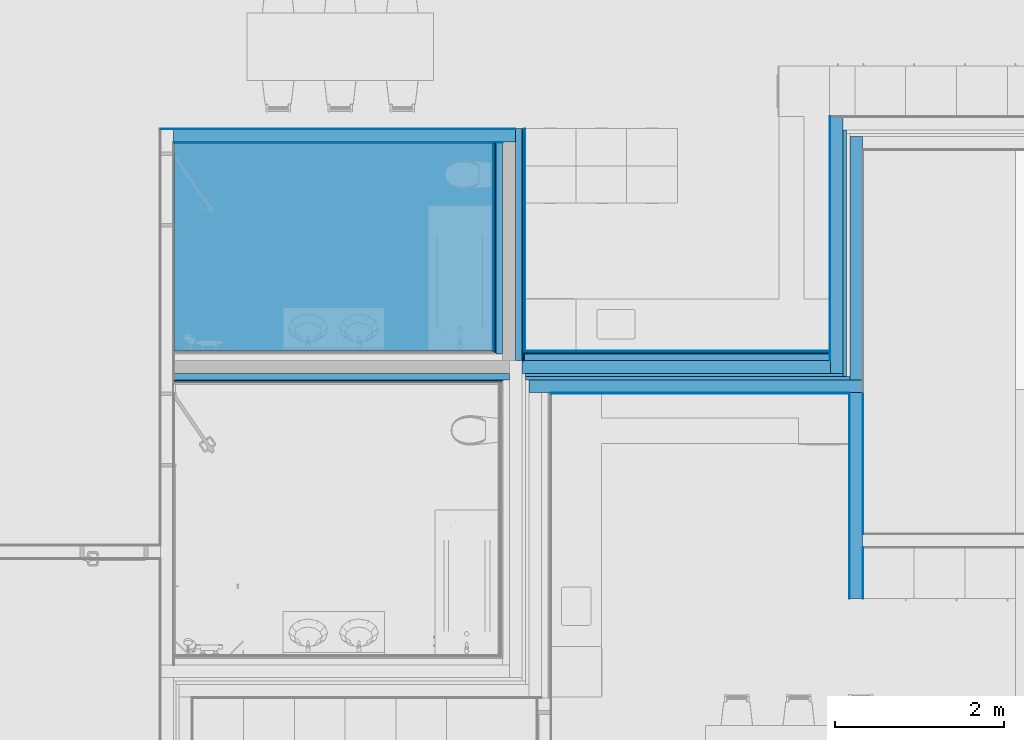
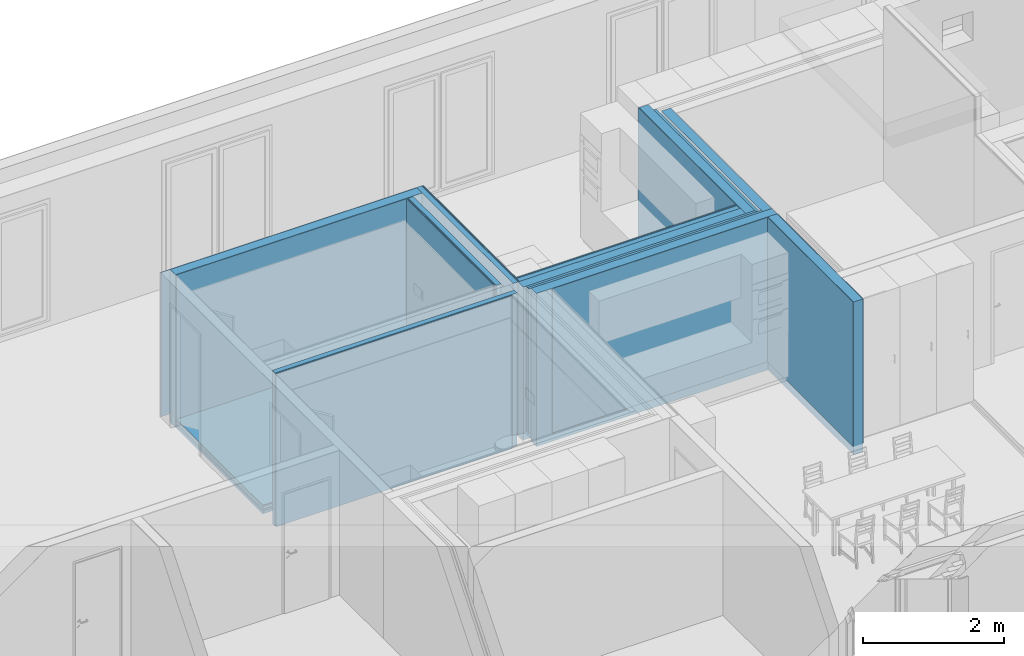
# One storey, part 10 of 34: 34 building element parts, 11 elements without a shape of their own.
"""IFC4 building model written with IfcOpenShell, lengths in millimetres."""

from ifc_helpers import new_model, entity, si_unit, converted_unit, derived_unit, direction, frame, origin_with_axes, place, context, subcontext, project, spatial, polygons, material, type_object, element, aggregate, save


model = new_model("IFC4")

# Units and contexts
model_context = context("Model", 3, precision=0.01, world=origin_with_axes(), true_north=direction((0.0, 1.0)))
body_context = subcontext(model_context, "Body", "Model", "MODEL_VIEW")
ifc_project = project(units=[si_unit("LENGTHUNIT", "METRE", prefix="MILLI"), si_unit("AREAUNIT", "SQUARE_METRE"), si_unit("VOLUMEUNIT", "CUBIC_METRE"), converted_unit("PLANEANGLEUNIT", "DEGREE", entity("IfcPlaneAngleMeasure", 0.0174532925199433), si_unit("PLANEANGLEUNIT", "RADIAN"), dimensions=[0, 0, 0, 0, 0, 0, 0]), converted_unit("TIMEUNIT", "Year", entity("IfcTimeMeasure", 31557600.0), si_unit("TIMEUNIT", "SECOND"), dimensions=[0, 0, 1, 0, 0, 0, 0]), si_unit("MASSUNIT", "GRAM", prefix="KILO"), si_unit("THERMODYNAMICTEMPERATUREUNIT", "DEGREE_CELSIUS"), si_unit("LUMINOUSINTENSITYUNIT", "LUMEN"), si_unit("ENERGYUNIT", "JOULE", prefix="MEGA"), derived_unit("THERMALCONDUCTANCEUNIT", [(si_unit("POWERUNIT", "WATT"), 1), (si_unit("LENGTHUNIT", "METRE"), -1), (si_unit("THERMODYNAMICTEMPERATUREUNIT", "KELVIN"), -1)]), derived_unit("SPECIFICHEATCAPACITYUNIT", [(si_unit("ENERGYUNIT", "JOULE"), 1), (si_unit("MASSUNIT", "GRAM", prefix="KILO"), -1), (si_unit("THERMODYNAMICTEMPERATUREUNIT", "KELVIN"), -1)]), derived_unit("MASSDENSITYUNIT", [(si_unit("MASSUNIT", "GRAM", prefix="KILO"), 1), (si_unit("VOLUMEUNIT", "CUBIC_METRE"), -1)])], contexts=[model_context])

# Site, building, storey
site_placement = place(None, origin_with_axes())
site = spatial("IfcSite", under=ifc_project, at=site_placement, Name="Gelände", CompositionType="ELEMENT")
building_placement = place(site_placement, origin_with_axes())
building = spatial("IfcBuilding", under=site, at=building_placement, Name="Gebäude", CompositionType="ELEMENT")
storey_placement = place(building_placement, frame((0.0, 0.0, 5799.999999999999), z_axis=(0.0, 0.0, 1.0), x_axis=(1.0, 0.0, 0.0)))
storey = spatial("IfcBuildingStorey", under=building, at=storey_placement, Name="2.OG", CompositionType="ELEMENT", Elevation=5800.0)

# Covering, building element parts
covering_type = type_object("IfcCoveringType", Name="Bodenaufbau Typ 02 150", PredefinedType="NOTDEFINED")
covering_placement = place(storey_placement, frame((282.9958184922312, 34534.06372514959, 0.0), z_axis=(0.0, 0.0, 1.0), x_axis=(1.0, 0.0, 0.0)))
covering = element("IfcCovering", 1, at=covering_placement, inside=storey, type_object=covering_type, Name="Decke-007", PredefinedType="NOTDEFINED")
ifc_material_1 = material(Name="Keramik")
building_element_part_1_placement = place(covering_placement, origin_with_axes())
building_element_part_1 = element("IfcBuildingElementPart", 2, at=building_element_part_1_placement, material=ifc_material_1, Name="Keramik", PredefinedType="NOTDEFINED", context=body_context, shape_type="Tessellation", body=[
    polygons([(0.0, -2456.466443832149, 135.0000000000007), (0.0, -2456.466443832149, 150.0000000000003), (0.0, 0.0, 150.0000000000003), (0.0, 0.0, 135.0000000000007), (3767.777730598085, -2456.466443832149, 135.0000000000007), (3767.777730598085, -2456.466443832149, 150.0000000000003), (3767.777730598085, -2.108517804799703e-05, 150.0000000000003), (3767.777730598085, -2.108517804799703e-05, 135.0000000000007)], [[[1, 2, 3, 4]], [[5, 6, 2, 1]], [[3, 2, 6, 7]], [[4, 3, 7, 8]], [[4, 8, 5, 1]], [[8, 7, 6, 5]]], closed=True),
])
ifc_material_2 = material(Name="Unterlagsboden")
building_element_part_2_placement = place(covering_placement, origin_with_axes())
building_element_part_2 = element("IfcBuildingElementPart", 3, at=building_element_part_2_placement, material=ifc_material_2, Name="Unterlagsboden", PredefinedType="NOTDEFINED", context=body_context, shape_type="Tessellation", body=[
    polygons([(0.0, -2456.466443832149, 80.00000000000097), (0.0, -2456.466443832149, 135.0000000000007), (0.0, 0.0, 135.0000000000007), (0.0, 0.0, 80.00000000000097), (3767.777730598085, -2456.466443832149, 80.00000000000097), (3767.777730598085, -2456.466443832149, 135.0000000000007), (3767.777730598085, -2.108517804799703e-05, 135.0000000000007), (3767.777730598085, -2.108517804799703e-05, 80.00000000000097)], [[[1, 2, 3, 4]], [[5, 6, 2, 1]], [[3, 2, 6, 7]], [[4, 3, 7, 8]], [[4, 8, 5, 1]], [[8, 7, 6, 5]]], closed=True),
])
ifc_material_3 = material(Name="Trittschalldämmung")
building_element_part_3_placement = place(covering_placement, origin_with_axes())
building_element_part_3 = element("IfcBuildingElementPart", 4, at=building_element_part_3_placement, material=ifc_material_3, Name="Trittschalldämmung", PredefinedType="NOTDEFINED", context=body_context, shape_type="Tessellation", body=[
    polygons([(0.0, -2456.466443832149, 49.99999999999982), (0.0, -2456.466443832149, 80.00000000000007), (0.0, 0.0, 80.00000000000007), (0.0, 0.0, 49.99999999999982), (3767.777730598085, -2456.466443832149, 49.99999999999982), (3767.777730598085, -2456.466443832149, 80.00000000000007), (3767.777730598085, -2.108517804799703e-05, 80.00000000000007), (3767.777730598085, -2.108517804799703e-05, 49.99999999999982)], [[[1, 2, 3, 4]], [[5, 6, 2, 1]], [[3, 2, 6, 7]], [[4, 3, 7, 8]], [[4, 8, 5, 1]], [[8, 7, 6, 5]]], closed=True),
])
ifc_material_4 = material(Name="Dämmung Innen")
building_element_part_4_placement = place(covering_placement, origin_with_axes())
building_element_part_4 = element("IfcBuildingElementPart", 5, at=building_element_part_4_placement, material=ifc_material_4, Name="Dämmung Innen", PredefinedType="NOTDEFINED", context=body_context, shape_type="Tessellation", body=[
    polygons([(0.0, 0.0, 0.0), (0.0, -2456.466443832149, 0.0), (0.0, -2456.466443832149, 50.00000000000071), (0.0, 0.0, 50.00000000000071), (3767.777730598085, -2.108517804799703e-05, 0.0), (3767.777730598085, -2456.466443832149, 0.0), (3767.777730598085, -2456.466443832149, 50.00000000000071), (3767.777730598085, -2.108517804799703e-05, 50.00000000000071)], [[[1, 2, 3, 4]], [[1, 5, 6, 2]], [[2, 6, 7, 3]], [[4, 3, 7, 8]], [[5, 1, 4, 8]], [[6, 5, 8, 7]]], closed=True),
])
aggregate(covering, [building_element_part_1, building_element_part_2, building_element_part_3, building_element_part_4])

# Wall, building element part
wall_type_1 = type_object("IfcWallType", Name="Trennwand Typ 02 - kein Putz 190", PredefinedType="NOTDEFINED")
wall_1_placement = place(storey_placement, frame((8038.997444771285, 31962.59728131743, 0.0), z_axis=(0.0, 0.0, 1.0), x_axis=(-1.0, 0.0, 0.0)))
wall_1 = element("IfcWall", 6, at=wall_1_placement, inside=storey, type_object=wall_type_1, Name="Wand-014", PredefinedType="NOTDEFINED")
building_element_part_5_placement = place(wall_1_placement, origin_with_axes())
building_element_part_5 = element("IfcBuildingElementPart", 7, at=building_element_part_5_placement, material=ifc_material_4, Name="Dämmung Innen", PredefinedType="NOTDEFINED", context=body_context, shape_type="Tessellation", body=[
    polygons([(-150.0000000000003, 190.0000000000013, 150.0000000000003), (-150.0000000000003, 149.9999999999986, 150.0000000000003), (-150.0000000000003, 149.9999999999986, 2649.999948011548), (-150.0000000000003, 190.0000000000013, 2649.999948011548), (3603.001626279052, 149.9999999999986, 150.0000000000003), (3603.001626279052, 190.0000000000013, 150.0000000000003), (3603.001626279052, 149.9999999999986, 2649.999948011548), (3603.001626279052, 190.0000000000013, 2649.999948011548)], [[[1, 2, 3, 4]], [[5, 2, 1, 6]], [[2, 5, 7, 3]], [[3, 7, 8, 4]], [[6, 1, 4, 8]], [[5, 6, 8, 7]]], closed=True),
])

wall_type_2 = type_object("IfcWallType", Name="Trennwand Typ 03 - verputzt 200", PredefinedType="NOTDEFINED")
wall_2_placement = place(storey_placement, frame((8038.997444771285, 34837.59728131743, 0.0), z_axis=(0.0, 0.0, 1.0), x_axis=(0.0, -1.0, 0.0)))
wall_2 = element("IfcWall", 8, at=wall_2_placement, inside=storey, type_object=wall_type_2, Name="Wand-014", PredefinedType="NOTDEFINED")
building_element_part_6_placement = place(wall_2_placement, origin_with_axes())
building_element_part_6 = element("IfcBuildingElementPart", 9, at=building_element_part_6_placement, material=ifc_material_4, Name="Dämmung Innen", PredefinedType="NOTDEFINED", context=body_context, shape_type="Tessellation", body=[
    polygons([(3064.999999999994, 189.9999999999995, 150.0000000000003), (149.9999999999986, 189.9999999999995, 150.0000000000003), (149.9999999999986, 189.9999999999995, 2649.999948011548), (3064.999999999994, 189.9999999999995, 2649.999948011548), (149.9999999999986, 150.0000000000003, 150.0000000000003), (3064.999999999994, 150.0000000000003, 150.0000000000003), (149.9999999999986, 150.0000000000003, 2649.999948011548), (3064.999999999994, 150.0000000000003, 2649.999948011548)], [[[1, 2, 3, 4]], [[5, 2, 1, 6]], [[2, 5, 7, 3]], [[8, 4, 3, 7]], [[6, 1, 4, 8]], [[5, 6, 8, 7]]], closed=True),
])

# Building element part
ifc_material_5 = material(Name="MW, Backstein")
building_element_part_7_placement = place(wall_1_placement, origin_with_axes())
building_element_part_7 = element("IfcBuildingElementPart", 10, at=building_element_part_7_placement, material=ifc_material_5, Name="MW, Backstein", PredefinedType="NOTDEFINED", context=body_context, shape_type="Tessellation", body=[
    polygons([(3643.001626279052, 149.9999999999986, 0.0), (3643.001626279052, 0.0, 0.0), (0.0, 0.0, 0.0), (0.0, 149.9999999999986, 0.0), (3643.001626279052, 149.9999999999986, 2649.999948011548), (3643.001626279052, 0.0, 2649.999948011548), (0.0, 0.0, 2649.999948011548), (0.0, 149.9999999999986, 2649.999948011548)], [[[1, 2, 3, 4]], [[2, 1, 5, 6]], [[2, 6, 7, 3]], [[8, 4, 3, 7]], [[5, 1, 4, 8]], [[6, 5, 8, 7]]], closed=True),
])

aggregate(wall_1, [building_element_part_5, building_element_part_7])

building_element_part_8_placement = place(wall_2_placement, origin_with_axes())
building_element_part_8 = element("IfcBuildingElementPart", 11, at=building_element_part_8_placement, material=ifc_material_5, Name="MW, Backstein", PredefinedType="NOTDEFINED", context=body_context, shape_type="Tessellation", body=[
    polygons([(3024.999999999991, 0.0, 0.0), (0.0, 0.0, 0.0), (0.0, 150.0000000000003, 0.0), (3024.999999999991, 150.0000000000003, 0.0), (3024.999999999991, 0.0, 2649.999948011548), (0.0, 0.0, 2649.999948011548), (0.0, 150.0000000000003, 2649.999948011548), (3024.999999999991, 150.0000000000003, 2649.999948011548)], [[[1, 2, 3, 4]], [[5, 6, 2, 1]], [[3, 2, 6, 7]], [[4, 3, 7, 8]], [[4, 8, 5, 1]], [[8, 7, 6, 5]]], closed=True),
])

ifc_material_6 = material(Name="Kalkzementputz Aussen")
building_element_part_9_placement = place(wall_2_placement, origin_with_axes())
building_element_part_9 = element("IfcBuildingElementPart", 12, at=building_element_part_9_placement, material=ifc_material_6, Name="Kalkzementputz Aussen", PredefinedType="NOTDEFINED", context=body_context, shape_type="Tessellation", body=[
    polygons([(2874.999999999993, 0.0, 150.0000000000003), (-9.99999999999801, 0.0, 150.0000000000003), (-9.99999999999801, 0.0, 2649.999948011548), (2874.999999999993, 0.0, 2649.999948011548), (-9.99999999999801, -9.999999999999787, 150.0000000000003), (2874.999999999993, -9.999999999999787, 150.0000000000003), (-9.99999999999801, -9.999999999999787, 2649.999948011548), (2874.999999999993, -9.999999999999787, 2649.999948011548)], [[[1, 2, 3, 4]], [[5, 2, 1, 6]], [[2, 5, 7, 3]], [[8, 4, 3, 7]], [[6, 1, 4, 8]], [[5, 6, 8, 7]]], closed=True),
])

aggregate(wall_2, [building_element_part_6, building_element_part_8, building_element_part_9])

# Wall, building element parts
wall_3_placement = place(storey_placement, frame((4625.995818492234, 31582.59728131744, 0.0), z_axis=(0.0, 0.0, 1.0), x_axis=(1.0, 0.0, 0.0)))
wall_3 = element("IfcWall", 13, at=wall_3_placement, inside=storey, type_object=wall_type_2, Name="Wand-015", PredefinedType="NOTDEFINED")
building_element_part_10_placement = place(wall_3_placement, origin_with_axes())
building_element_part_10 = element("IfcBuildingElementPart", 14, at=building_element_part_10_placement, material=ifc_material_4, Name="Dämmung Innen", PredefinedType="NOTDEFINED", context=body_context, shape_type="Tessellation", body=[
    polygons([(3643.001626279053, 149.9999999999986, 150.0000000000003), (3643.001626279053, 190.0000000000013, 150.0000000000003), (3643.001626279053, 190.0000000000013, 2649.999948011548), (3643.001626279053, 150.0000000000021, 2649.999948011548), (-190.0000000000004, 190.0000000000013, 150.0000000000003), (-190.0000000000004, 149.9999999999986, 150.0000000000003), (-190.0000000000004, 190.0000000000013, 2649.999948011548), (-190.0000000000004, 149.9999999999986, 2649.999948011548)], [[[1, 2, 3, 4]], [[5, 2, 1, 6]], [[2, 5, 7, 3]], [[4, 3, 7, 8]], [[6, 1, 4, 8]], [[5, 6, 8, 7]]], closed=True),
])
building_element_part_11_placement = place(wall_3_placement, origin_with_axes())
building_element_part_11 = element("IfcBuildingElementPart", 15, at=building_element_part_11_placement, material=ifc_material_5, Name="MW, Backstein", PredefinedType="NOTDEFINED", context=body_context, shape_type="Tessellation", body=[
    polygons([(3793.001626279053, 149.9999999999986, 0.0), (3793.001626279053, 0.0, 0.0), (-150.0000000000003, 0.0, 0.0), (-150.0000000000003, 149.9999999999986, 0.0), (3793.001626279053, 150.0000000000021, 2649.999948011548), (3793.001626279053, 0.0, 2649.999948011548), (-150.0000000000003, 0.0, 2649.999948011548), (-150.0000000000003, 149.9999999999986, 2649.999948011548)], [[[1, 2, 3, 4]], [[2, 1, 5, 6]], [[2, 6, 7, 3]], [[8, 4, 3, 7]], [[5, 1, 4, 8]], [[6, 5, 8, 7]]], closed=True),
])

# Wall, building element part
wall_4_placement = place(storey_placement, frame((8418.997444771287, 31582.59728131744, 0.0), z_axis=(0.0, 0.0, 1.0), x_axis=(0.0, 1.0, 0.0)))
wall_4 = element("IfcWall", 16, at=wall_4_placement, inside=storey, type_object=wall_type_2, Name="Wand-016", PredefinedType="NOTDEFINED")
building_element_part_12_placement = place(wall_4_placement, origin_with_axes())
building_element_part_12 = element("IfcBuildingElementPart", 17, at=building_element_part_12_placement, material=ifc_material_5, Name="MW, Backstein", PredefinedType="NOTDEFINED", context=body_context, shape_type="Tessellation", body=[
    polygons([(3024.999999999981, 0.0, 0.0), (149.9999999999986, 0.0, 0.0), (149.9999999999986, 150.0000000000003, 0.0), (3024.999999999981, 150.0000000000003, 0.0), (3024.999999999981, 0.0, 2649.999948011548), (149.9999999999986, 0.0, 2649.999948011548), (149.9999999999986, 150.0000000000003, 2649.999948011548), (3024.999999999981, 150.0000000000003, 2649.999948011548)], [[[1, 2, 3, 4]], [[5, 6, 2, 1]], [[3, 2, 6, 7]], [[4, 3, 7, 8]], [[4, 8, 5, 1]], [[8, 7, 6, 5]]], closed=True),
])
aggregate(wall_4, [building_element_part_12])

# Wall, building element parts
wall_type_3 = type_object("IfcWallType", Name="Innenwand Typ 05 170", PredefinedType="NOTDEFINED")
wall_5_placement = place(storey_placement, frame((8418.997444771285, 31582.59728131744, 0.0), z_axis=(0.0, 0.0, 1.0), x_axis=(0.0, -1.0, 0.0)))
wall_5 = element("IfcWall", 18, at=wall_5_placement, inside=storey, type_object=wall_type_3, Name="Wand-014", PredefinedType="NOTDEFINED")
building_element_part_13_placement = place(wall_5_placement, origin_with_axes())
building_element_part_13 = element("IfcBuildingElementPart", 19, at=building_element_part_13_placement, material=ifc_material_6, Name="Kalkzementputz Aussen", PredefinedType="NOTDEFINED", context=body_context, shape_type="Tessellation", body=[
    polygons([(1674.999999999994, 9.999999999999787, 150.0000000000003), (9.99999999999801, 10.00000000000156, 150.0000000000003), (9.99999999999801, 10.00000000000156, 2649.999948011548), (1674.999999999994, 9.999999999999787, 2649.999948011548), (9.99999999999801, 0.0, 150.0000000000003), (1674.999999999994, 0.0, 150.0000000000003), (9.99999999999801, 0.0, 2649.999948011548), (1674.999999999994, 0.0, 2649.999948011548)], [[[1, 2, 3, 4]], [[5, 2, 1, 6]], [[2, 5, 7, 3]], [[4, 3, 7, 8]], [[6, 1, 4, 8]], [[5, 6, 8, 7]]], closed=True),
    polygons([(2432.999999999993, 9.999999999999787, 150.0000000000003), (1824.999999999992, 9.999999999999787, 150.0000000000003), (1824.999999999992, 9.999999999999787, 2649.999948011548), (2432.999999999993, 9.999999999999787, 2649.999948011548), (1824.999999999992, 0.0, 150.0000000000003), (2432.999999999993, 0.0, 150.0000000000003), (1824.999999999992, 0.0, 2649.999948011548), (2432.999999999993, 0.0, 2649.999948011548)], [[[1, 2, 3, 4]], [[5, 2, 1, 6]], [[2, 5, 7, 3]], [[3, 7, 8, 4]], [[6, 1, 4, 8]], [[5, 6, 8, 7]]], closed=True),
])
building_element_part_14_placement = place(wall_5_placement, origin_with_axes())
building_element_part_14 = element("IfcBuildingElementPart", 20, at=building_element_part_14_placement, material=ifc_material_6, Name="Kalkzementputz Aussen", PredefinedType="NOTDEFINED", context=body_context, shape_type="Tessellation", body=[
    polygons([(2432.999999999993, -150.0000000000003, 150.0000000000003), (9.99999999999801, -149.9999999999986, 150.0000000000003), (9.99999999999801, -149.9999999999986, 2649.999948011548), (2432.999999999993, -150.0000000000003, 2649.999948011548), (9.99999999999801, -160.0000000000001, 150.0000000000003), (2432.999999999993, -160.0000000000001, 150.0000000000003), (9.99999999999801, -160.0000000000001, 2649.999948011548), (2432.999999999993, -160.0000000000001, 2649.999948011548)], [[[1, 2, 3, 4]], [[5, 2, 1, 6]], [[2, 5, 7, 3]], [[4, 3, 7, 8]], [[6, 1, 4, 8]], [[5, 6, 8, 7]]], closed=True),
])
building_element_part_15_placement = place(wall_5_placement, origin_with_axes())
building_element_part_15 = element("IfcBuildingElementPart", 21, at=building_element_part_15_placement, material=ifc_material_5, Name="MW, Backstein", PredefinedType="NOTDEFINED", context=body_context, shape_type="Tessellation", body=[
    polygons([(0.0, 0.0, 0.0), (0.0, 0.0, 2649.999948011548), (2432.999999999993, 0.0, 2649.999948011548), (2432.999999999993, 0.0, 0.0), (0.0, -149.9999999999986, 2649.999948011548), (0.0, -149.9999999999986, 0.0), (2432.999999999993, -150.0000000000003, 2649.999948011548), (2432.999999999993, -150.0000000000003, 0.0)], [[[1, 2, 3, 4]], [[5, 2, 1, 6]], [[2, 5, 7, 3]], [[4, 3, 7, 8]], [[6, 1, 4, 8]], [[5, 6, 8, 7]]], closed=True),
])
aggregate(wall_5, [building_element_part_13, building_element_part_14, building_element_part_15])

# Building element part
building_element_part_16_placement = place(wall_3_placement, origin_with_axes())
building_element_part_16 = element("IfcBuildingElementPart", 22, at=building_element_part_16_placement, material=ifc_material_6, Name="Kalkzementputz Aussen", PredefinedType="NOTDEFINED", context=body_context, shape_type="Tessellation", body=[
    polygons([(3643.001626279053, -9.99999999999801, 150.0000000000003), (3643.001626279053, 0.0, 150.0000000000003), (3643.001626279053, 0.0, 2649.999948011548), (3643.001626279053, -9.99999999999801, 2649.999948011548), (104.9999999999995, 0.0, 150.0000000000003), (104.9999999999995, -10.00000000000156, 150.0000000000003), (104.9999999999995, 0.0, 2649.999948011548), (104.9999999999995, -10.00000000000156, 2649.999948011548)], [[[1, 2, 3, 4]], [[5, 2, 1, 6]], [[2, 5, 7, 3]], [[8, 4, 3, 7]], [[6, 1, 4, 8]], [[5, 6, 8, 7]]], closed=True),
    polygons([(3803.001626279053, -9.99999999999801, 150.0000000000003), (3803.001626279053, 0.0, 150.0000000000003), (3803.001626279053, 0.0, 2649.999948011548), (3803.001626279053, -9.99999999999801, 2649.999948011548), (3793.001626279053, 0.0, 150.0000000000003), (3793.001626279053, -9.99999999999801, 150.0000000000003), (3793.001626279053, 0.0, 2649.999948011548), (3793.001626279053, -9.99999999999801, 2649.999948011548)], [[[1, 2, 3, 4]], [[5, 2, 1, 6]], [[2, 5, 7, 3]], [[3, 7, 8, 4]], [[6, 1, 4, 8]], [[5, 6, 8, 7]]], closed=True),
])

aggregate(wall_3, [building_element_part_10, building_element_part_11, building_element_part_16])

# Wall, building element parts
wall_type_4 = type_object("IfcWallType", Name="Vorsatzschale 01 115", PredefinedType="NOTDEFINED")
wall_6_placement = place(storey_placement, frame((8028.997444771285, 31962.59728131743, 0.0), z_axis=(0.0, 0.0, 1.0), x_axis=(-1.0, 0.0, 0.0)))
wall_6 = element("IfcWall", 23, at=wall_6_placement, inside=storey, type_object=wall_type_4, Name="Wand-014", PredefinedType="NOTDEFINED")
ifc_material_7 = material(Name="Gipskartonplatte GKP")
building_element_part_17_placement = place(wall_6_placement, origin_with_axes())
building_element_part_17 = element("IfcBuildingElementPart", 24, at=building_element_part_17_placement, material=ifc_material_7, Name="Gipskartonplatte GKP", PredefinedType="NOTDEFINED", context=body_context, shape_type="Tessellation", body=[
    polygons([(3608.223895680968, -92.50000000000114, 0.0), (3608.223895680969, -92.50000000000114, 2649.999948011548), (0.0, -92.50000000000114, 2649.999948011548), (0.0, -92.50000000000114, 0.0), (3608.223895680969, -79.9999999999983, 2649.999948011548), (3608.223895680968, -79.9999999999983, 0.0), (0.0, -79.9999999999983, 2649.999948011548), (0.0, -79.9999999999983, 0.0)], [[[1, 2, 3, 4]], [[5, 2, 1, 6]], [[2, 5, 7, 3]], [[3, 7, 8, 4]], [[6, 1, 4, 8]], [[5, 6, 8, 7]]], closed=True),
])
building_element_part_18_placement = place(wall_6_placement, origin_with_axes())
building_element_part_18 = element("IfcBuildingElementPart", 25, at=building_element_part_18_placement, material=ifc_material_7, Name="Gipskartonplatte GKP", PredefinedType="NOTDEFINED", context=body_context, shape_type="Tessellation", body=[
    polygons([(3608.223895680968, -104.9999999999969, 0.0), (3608.223895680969, -104.9999999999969, 2649.999948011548), (0.0, -104.9999999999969, 2649.999948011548), (0.0, -104.9999999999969, 0.0), (3608.223895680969, -92.50000000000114, 2649.999948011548), (3608.223895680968, -92.50000000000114, 0.0), (0.0, -92.50000000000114, 2649.999948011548), (0.0, -92.50000000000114, 0.0)], [[[1, 2, 3, 4]], [[5, 2, 1, 6]], [[2, 5, 7, 3]], [[3, 7, 8, 4]], [[6, 1, 4, 8]], [[5, 6, 8, 7]]], closed=True),
])
building_element_part_19_placement = place(wall_6_placement, origin_with_axes())
building_element_part_19 = element("IfcBuildingElementPart", 26, at=building_element_part_19_placement, material=ifc_material_6, Name="Kalkzementputz Aussen", PredefinedType="NOTDEFINED", context=body_context, shape_type="Tessellation", body=[
    polygons([(0.0, -104.9999999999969, 150.0000000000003), (0.0, -115.000000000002, 150.0000000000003), (0.0, -115.000000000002, 2649.999948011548), (0.0, -104.9999999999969, 2649.999948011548), (3598.223895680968, -115.000000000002, 150.0000000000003), (3598.223895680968, -104.9999999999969, 150.0000000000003), (3598.223895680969, -115.000000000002, 2649.999948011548), (3598.223895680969, -104.9999999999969, 2649.999948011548)], [[[1, 2, 3, 4]], [[5, 2, 1, 6]], [[2, 5, 7, 3]], [[3, 7, 8, 4]], [[6, 1, 4, 8]], [[5, 6, 8, 7]]], closed=True),
])
ifc_material_8 = material(Name="Ständer Konstruktion gedämmt")
building_element_part_20_placement = place(wall_6_placement, origin_with_axes())
building_element_part_20 = element("IfcBuildingElementPart", 27, at=building_element_part_20_placement, material=ifc_material_8, Name="Ständer Konstruktion gedämmt", PredefinedType="NOTDEFINED", context=body_context, shape_type="Tessellation", body=[
    polygons([(3608.223895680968, -79.9999999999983, 0.0), (3608.223895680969, -79.9999999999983, 2649.999948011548), (0.0, -79.9999999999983, 2649.999948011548), (0.0, -79.9999999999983, 0.0), (3608.223895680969, 0.0, 2649.999948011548), (3608.223895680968, 0.0, 0.0), (0.0, 0.0, 2649.999948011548), (0.0, 0.0, 0.0)], [[[1, 2, 3, 4]], [[5, 2, 1, 6]], [[2, 5, 7, 3]], [[3, 7, 8, 4]], [[6, 1, 4, 8]], [[5, 6, 8, 7]]], closed=True),
])
aggregate(wall_6, [building_element_part_17, building_element_part_18, building_element_part_19, building_element_part_20])

wall_7_placement = place(storey_placement, frame((122.9958184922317, 34704.06370406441, 0.0), z_axis=(0.0, 0.0, 1.0), x_axis=(1.0, 0.0, 0.0)))
wall_7 = element("IfcWall", 28, at=wall_7_placement, inside=storey, type_object=wall_type_3, Name="Wand-014", PredefinedType="NOTDEFINED")
building_element_part_21_placement = place(wall_7_placement, origin_with_axes())
building_element_part_21 = element("IfcBuildingElementPart", 29, at=building_element_part_21_placement, material=ifc_material_6, Name="Kalkzementputz Aussen", PredefinedType="NOTDEFINED", context=body_context, shape_type="Tessellation", body=[
    polygons([(4192.777730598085, -9.99999999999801, 150.0000000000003), (4192.777730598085, 0.0, 150.0000000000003), (4192.777730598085, 0.0, 2649.999948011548), (4192.777730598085, -9.99999999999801, 2649.999948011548), (0.0, -9.99999999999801, 150.0000000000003), (0.0, 0.0, 150.0000000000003), (0.0, 0.0, 2649.999948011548), (0.0, -9.99999999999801, 2649.999948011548)], [[[1, 2, 3, 4]], [[2, 1, 5, 6]], [[2, 6, 7, 3]], [[4, 3, 7, 8]], [[1, 4, 8, 5]], [[6, 5, 8, 7]]], closed=True),
])
building_element_part_22_placement = place(wall_7_placement, origin_with_axes())
building_element_part_22 = element("IfcBuildingElementPart", 30, at=building_element_part_22_placement, material=ifc_material_5, Name="MW, Backstein", PredefinedType="NOTDEFINED", context=body_context, shape_type="Tessellation", body=[
    polygons([(4192.777730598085, -9.99999999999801, 2649.999948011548), (150.0, -9.99999999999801, 2649.999948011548), (150.0, -159.9999999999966, 2649.999948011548), (4192.777730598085, -159.9999999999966, 2649.999948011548), (4192.777730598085, -9.99999999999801, 0.0), (150.0, -9.99999999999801, 0.0), (150.0, -159.9999999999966, 0.0), (4192.777730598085, -159.9999999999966, 0.0)], [[[1, 2, 3, 4]], [[5, 6, 2, 1]], [[3, 2, 6, 7]], [[4, 3, 7, 8]], [[4, 8, 5, 1]], [[8, 7, 6, 5]]], closed=True),
])
building_element_part_23_placement = place(wall_7_placement, origin_with_axes())
building_element_part_23 = element("IfcBuildingElementPart", 31, at=building_element_part_23_placement, material=ifc_material_6, Name="Kalkzementputz Aussen", PredefinedType="NOTDEFINED", context=body_context, shape_type="Tessellation", body=[
    polygons([(4042.777730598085, -170.0000000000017, 150.0000000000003), (4042.777730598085, -159.9999999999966, 150.0000000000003), (4042.777730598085, -159.9999999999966, 2649.999948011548), (4042.777730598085, -170.0000000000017, 2649.999948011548), (3927.777730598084, -159.9999999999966, 150.0000000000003), (3927.777730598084, -170.0000000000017, 150.0000000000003), (3927.777730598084, -159.9999999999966, 0.0), (160.0000000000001, -159.9999999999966, 0.0), (160.0000000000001, -159.9999999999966, 2649.999948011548), (160.0000000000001, -170.0000000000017, 2649.999948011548), (160.0000000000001, -170.0000000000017, 0.0), (3927.777730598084, -170.0000000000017, 0.0)], [[[1, 2, 3, 4]], [[5, 2, 1, 6]], [[5, 7, 8, 9, 3, 2]], [[4, 3, 9, 10]], [[6, 1, 4, 10, 11, 12]], [[5, 6, 12, 7]], [[7, 12, 11, 8]], [[11, 10, 9, 8]]], closed=True),
])
aggregate(wall_7, [building_element_part_21, building_element_part_22, building_element_part_23])

wall_8_placement = place(storey_placement, frame((4050.773549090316, 32077.59728131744, 0.0), z_axis=(0.0, 0.0, 1.0), x_axis=(0.0, 1.0, 0.0)))
wall_8 = element("IfcWall", 32, at=wall_8_placement, inside=storey, type_object=wall_type_4, Name="Wand-014", PredefinedType="NOTDEFINED")
building_element_part_24_placement = place(wall_8_placement, origin_with_axes())
building_element_part_24 = element("IfcBuildingElementPart", 33, at=building_element_part_24_placement, material=ifc_material_6, Name="Kalkzementputz Aussen", PredefinedType="NOTDEFINED", context=body_context, shape_type="Tessellation", body=[
    polygons([(2456.466422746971, -9.999999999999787, 2649.999948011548), (2456.466422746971, 0.0, 2649.999948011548), (0.0, 0.0, 2649.999948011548), (0.0, -9.999999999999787, 2649.999948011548), (2456.466422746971, -9.999999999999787, 0.0), (2456.466422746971, 0.0, 0.0), (0.0, 0.0, 0.0), (0.0, -9.999999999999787, 0.0)], [[[1, 2, 3, 4]], [[1, 5, 6, 2]], [[2, 6, 7, 3]], [[4, 3, 7, 8]], [[5, 1, 4, 8]], [[6, 5, 8, 7]]], closed=True),
])
building_element_part_25_placement = place(wall_8_placement, origin_with_axes())
building_element_part_25 = element("IfcBuildingElementPart", 34, at=building_element_part_25_placement, material=ifc_material_7, Name="Gipskartonplatte GKP", PredefinedType="NOTDEFINED", context=body_context, shape_type="Tessellation", body=[
    polygons([(2456.466422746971, -22.49999999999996, 2649.999948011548), (2456.466422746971, -9.999999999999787, 2649.999948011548), (-9.99999999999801, -9.999999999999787, 2649.999948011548), (-9.99999999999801, -22.49999999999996, 2649.999948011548), (2456.466422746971, -22.49999999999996, 0.0), (2456.466422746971, -9.999999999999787, 0.0), (-9.99999999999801, -9.999999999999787, 0.0), (-9.99999999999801, -22.49999999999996, 0.0)], [[[1, 2, 3, 4]], [[1, 5, 6, 2]], [[2, 6, 7, 3]], [[4, 3, 7, 8]], [[5, 1, 4, 8]], [[6, 5, 8, 7]]], closed=True),
])
building_element_part_26_placement = place(wall_8_placement, origin_with_axes())
building_element_part_26 = element("IfcBuildingElementPart", 35, at=building_element_part_26_placement, material=ifc_material_7, Name="Gipskartonplatte GKP", PredefinedType="NOTDEFINED", context=body_context, shape_type="Tessellation", body=[
    polygons([(2456.466422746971, -35.00000000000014, 2649.999948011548), (2456.466422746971, -22.49999999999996, 2649.999948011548), (-22.50000000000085, -22.49999999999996, 2649.999948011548), (-22.50000000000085, -35.00000000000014, 2649.999948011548), (2456.466422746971, -35.00000000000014, 0.0), (2456.466422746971, -22.49999999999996, 0.0), (-22.50000000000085, -22.49999999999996, 0.0), (-22.50000000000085, -35.00000000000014, 0.0)], [[[1, 2, 3, 4]], [[1, 5, 6, 2]], [[2, 6, 7, 3]], [[4, 3, 7, 8]], [[5, 1, 4, 8]], [[6, 5, 8, 7]]], closed=True),
])
building_element_part_27_placement = place(wall_8_placement, origin_with_axes())
building_element_part_27 = element("IfcBuildingElementPart", 36, at=building_element_part_27_placement, material=ifc_material_8, Name="Ständer Konstruktion gedämmt", PredefinedType="NOTDEFINED", context=body_context, shape_type="Tessellation", body=[
    polygons([(2456.466422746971, -115.0000000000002, 2649.999948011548), (2456.466422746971, -35.00000000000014, 2649.999948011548), (-34.99999999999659, -35.00000000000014, 2649.999948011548), (-34.99999999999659, -115.0000000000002, 2649.999948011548), (2456.466422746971, -115.0000000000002, 0.0), (2456.466422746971, -35.00000000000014, 0.0), (-34.99999999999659, -35.00000000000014, 0.0), (-34.99999999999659, -115.0000000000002, 0.0)], [[[1, 2, 3, 4]], [[1, 5, 6, 2]], [[2, 6, 7, 3]], [[4, 3, 7, 8]], [[5, 1, 4, 8]], [[6, 5, 8, 7]]], closed=True),
])
aggregate(wall_8, [building_element_part_24, building_element_part_25, building_element_part_26, building_element_part_27])

wall_9_placement = place(storey_placement, frame((4430.773549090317, 31962.59728131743, 0.0), z_axis=(0.0, 0.0, 1.0), x_axis=(0.0, 1.0, 0.0)))
wall_9 = element("IfcWall", 37, at=wall_9_placement, inside=storey, type_object=wall_type_4, Name="Wand-014", PredefinedType="NOTDEFINED")
building_element_part_28_placement = place(wall_9_placement, origin_with_axes())
building_element_part_28 = element("IfcBuildingElementPart", 38, at=building_element_part_28_placement, material=ifc_material_7, Name="Gipskartonplatte GKP", PredefinedType="NOTDEFINED", context=body_context, shape_type="Tessellation", body=[
    polygons([(0.0, 22.49999999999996, 0.0), (2741.466422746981, 22.49999999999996, 0.0), (2741.466422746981, 9.999999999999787, 0.0), (0.0, 9.999999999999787, 0.0), (0.0, 22.49999999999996, 2649.999948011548), (2741.466422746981, 22.49999999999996, 2649.999948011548), (2741.466422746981, 9.999999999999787, 2649.999948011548), (0.0, 9.999999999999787, 2649.999948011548)], [[[1, 2, 3, 4]], [[5, 6, 2, 1]], [[3, 2, 6, 7]], [[4, 3, 7, 8]], [[5, 1, 4, 8]], [[8, 7, 6, 5]]], closed=True),
])
building_element_part_29_placement = place(wall_9_placement, origin_with_axes())
building_element_part_29 = element("IfcBuildingElementPart", 39, at=building_element_part_29_placement, material=ifc_material_7, Name="Gipskartonplatte GKP", PredefinedType="NOTDEFINED", context=body_context, shape_type="Tessellation", body=[
    polygons([(2741.466422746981, 35.00000000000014, 0.0), (2741.466422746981, 22.49999999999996, 0.0), (0.0, 22.49999999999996, 0.0), (0.0, 35.00000000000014, 0.0), (2741.466422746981, 35.00000000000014, 2649.999948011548), (2741.466422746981, 22.49999999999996, 2649.999948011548), (0.0, 22.49999999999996, 2649.999948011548), (0.0, 35.00000000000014, 2649.999948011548)], [[[1, 2, 3, 4]], [[1, 5, 6, 2]], [[2, 6, 7, 3]], [[4, 3, 7, 8]], [[5, 1, 4, 8]], [[6, 5, 8, 7]]], closed=True),
])
building_element_part_30_placement = place(wall_9_placement, origin_with_axes())
building_element_part_30 = element("IfcBuildingElementPart", 40, at=building_element_part_30_placement, material=ifc_material_6, Name="Kalkzementputz Aussen", PredefinedType="NOTDEFINED", context=body_context, shape_type="Tessellation", body=[
    polygons([(104.9999999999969, 0.0, 150.0000000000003), (2741.466422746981, 0.0, 150.0000000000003), (2741.466422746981, 0.0, 2649.999948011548), (104.9999999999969, 0.0, 2649.999948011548), (2741.466422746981, 9.999999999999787, 150.0000000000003), (104.9999999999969, 9.999999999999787, 150.0000000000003), (2741.466422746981, 9.999999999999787, 2649.999948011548), (104.9999999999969, 10.00000000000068, 2649.999948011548)], [[[1, 2, 3, 4]], [[5, 2, 1, 6]], [[2, 5, 7, 3]], [[7, 8, 4, 3]], [[6, 1, 4, 8]], [[5, 6, 8, 7]]], closed=True),
])
building_element_part_31_placement = place(wall_9_placement, origin_with_axes())
building_element_part_31 = element("IfcBuildingElementPart", 41, at=building_element_part_31_placement, material=ifc_material_8, Name="Ständer Konstruktion gedämmt", PredefinedType="NOTDEFINED", context=body_context, shape_type="Tessellation", body=[
    polygons([(2741.466422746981, 115.0000000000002, 0.0), (2741.466422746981, 35.00000000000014, 0.0), (0.0, 35.00000000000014, 0.0), (0.0, 115.0000000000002, 0.0), (2741.466422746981, 115.0000000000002, 2649.999948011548), (2741.466422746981, 35.00000000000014, 2649.999948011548), (0.0, 35.00000000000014, 2649.999948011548), (0.0, 115.0000000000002, 2649.999948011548)], [[[1, 2, 3, 4]], [[1, 5, 6, 2]], [[2, 6, 7, 3]], [[4, 3, 7, 8]], [[5, 1, 4, 8]], [[6, 5, 8, 7]]], closed=True),
])
aggregate(wall_9, [building_element_part_28, building_element_part_29, building_element_part_30, building_element_part_31])

wall_10_placement = place(storey_placement, frame((4130.995818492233, 31697.59728131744, 0.0), z_axis=(0.0, 0.0, 1.0), x_axis=(-1.0, 0.0, 0.0)))
wall_10 = element("IfcWall", 42, at=wall_10_placement, inside=storey, type_object=wall_type_4, Name="Wand-014", PredefinedType="NOTDEFINED")
building_element_part_32_placement = place(wall_10_placement, origin_with_axes())
building_element_part_32 = element("IfcBuildingElementPart", 43, at=building_element_part_32_placement, material=ifc_material_7, Name="Gipskartonplatte GKP", PredefinedType="NOTDEFINED", context=body_context, shape_type="Tessellation", body=[
    polygons([(3848.000000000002, -22.50000000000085, 2649.999948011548), (3848.000000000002, -10.00000000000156, 2649.999948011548), (-22.49999999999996, -10.00000000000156, 2649.999948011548), (-22.49999999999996, -22.50000000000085, 2649.999948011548), (3848.000000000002, -22.50000000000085, 0.0), (3848.000000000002, -10.00000000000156, 0.0), (-22.49999999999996, -10.00000000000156, 0.0), (-22.49999999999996, -22.50000000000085, 0.0)], [[[1, 2, 3, 4]], [[1, 5, 6, 2]], [[2, 6, 7, 3]], [[4, 3, 7, 8]], [[5, 1, 4, 8]], [[6, 5, 8, 7]]], closed=True),
])
building_element_part_33_placement = place(wall_10_placement, origin_with_axes())
building_element_part_33 = element("IfcBuildingElementPart", 44, at=building_element_part_33_placement, material=ifc_material_7, Name="Gipskartonplatte GKP", PredefinedType="NOTDEFINED", context=body_context, shape_type="Tessellation", body=[
    polygons([(3848.000000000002, -35.00000000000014, 2649.999948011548), (3848.000000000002, -22.50000000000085, 2649.999948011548), (-35.00000000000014, -22.50000000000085, 2649.999948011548), (-35.00000000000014, -35.00000000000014, 2649.999948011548), (3848.000000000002, -35.00000000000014, 0.0), (3848.000000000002, -22.50000000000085, 0.0), (-35.00000000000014, -22.50000000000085, 0.0), (-35.00000000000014, -35.00000000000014, 0.0)], [[[1, 2, 3, 4]], [[1, 5, 6, 2]], [[2, 6, 7, 3]], [[4, 3, 7, 8]], [[5, 1, 4, 8]], [[6, 5, 8, 7]]], closed=True),
])
building_element_part_34_placement = place(wall_10_placement, origin_with_axes())
building_element_part_34 = element("IfcBuildingElementPart", 45, at=building_element_part_34_placement, material=ifc_material_8, Name="Ständer Konstruktion gedämmt", PredefinedType="NOTDEFINED", context=body_context, shape_type="Tessellation", body=[
    polygons([(3848.000000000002, -114.9999999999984, 2649.999948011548), (3848.000000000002, -35.00000000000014, 2649.999948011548), (-115.0000000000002, -35.00000000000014, 2649.999948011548), (-115.0000000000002, -114.9999999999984, 2649.999948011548), (3848.000000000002, -115.000000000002, 0.0), (3848.000000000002, -35.00000000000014, 0.0), (-115.0000000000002, -35.00000000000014, 0.0), (-115.0000000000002, -114.9999999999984, 0.0)], [[[1, 2, 3, 4]], [[1, 5, 6, 2]], [[2, 6, 7, 3]], [[4, 3, 7, 8]], [[5, 1, 4, 8]], [[6, 5, 8, 7]]], closed=True),
])
aggregate(wall_10, [building_element_part_32, building_element_part_33, building_element_part_34])

save(model, "model.ifc")
